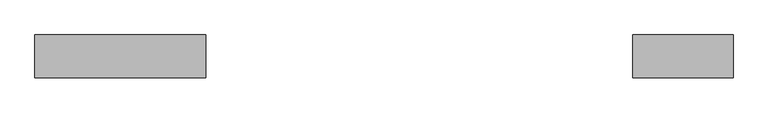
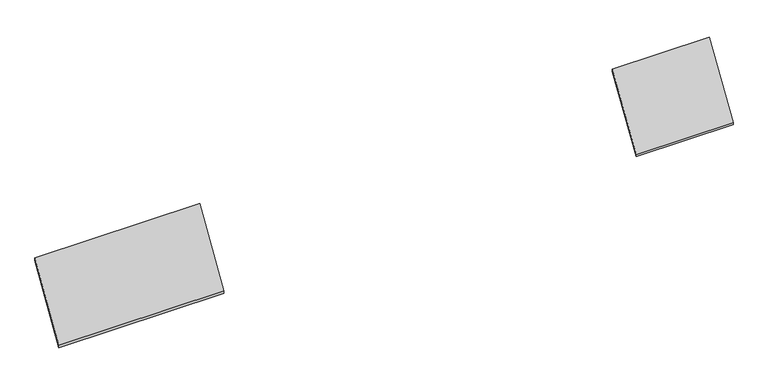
"""IFC4 building model written with IfcOpenShell, lengths in millimetres: proxy geometry, 常规模型 3 : 常规模型 3."""

from ifc_helpers import new_model, si_unit, frame, origin, place, context, project, spatial, polyline, outline, extrude, source, transform, mapped, element, save


def generic_models_50eb2f88(model_context):
    return source(origin(), model_context, "Body", "SweptSolid", [
        extrude(outline(polyline([(-4799.667228, -4350.0), (-4799.667228, -4204.8), (-2396.595228, -450.0), (-2396.595228, -595.2), (-4799.667228, -4350.0)])), frame((15809.0524305, 0.0, 0.0), z_axis=(1.0, 0.0, 0.0), x_axis=(0.0, 1.0, 0.0)), (0.0, 0.0, 1.0), 5600.0),
        extrude(outline(polyline([(-4799.667228, -4204.8), (-2396.595228, -295.001856), (-2396.595228, -450.0), (-4799.667228, -4350.0), (-4799.667228, -4204.8)])), frame((-17638.1244796, 0.0, 0.0), z_axis=(1.0, 0.0, 0.0), x_axis=(0.0, 1.0, 0.0)), (0.0, 0.0, 1.0), 9547.1769101),
    ])


if __name__ == "__main__":
    model = new_model("IFC4")
    model_context = context("Model", 3, world=origin())
    ifc_project = project(units=[si_unit("LENGTHUNIT", "METRE", prefix="MILLI")], contexts=[model_context])
    site = spatial("IfcSite", under=ifc_project)
    building = spatial("IfcBuilding", under=site)
    placement = place(None, origin())
    generic_models_shape = generic_models_50eb2f88(model_context)
    element("IfcBuildingElementProxy", 1, Name="常规模型 3 : 常规模型 3", ObjectType="常规模型 3 : 常规模型 3", at=placement, inside=building, context=model_context, shape_type="MappedRepresentation", body=[
        mapped(generic_models_shape, transform((0.0, 0.0, 0.0), x_axis=(1.0, 0.0, 0.0), y_axis=(0.0, 1.0, 0.0), z_axis=(0.0, 0.0, 1.0))),
    ])
    save(model, "model.ifc")
